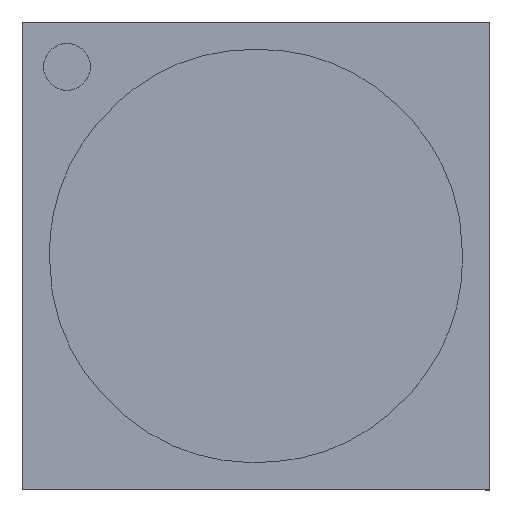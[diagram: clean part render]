
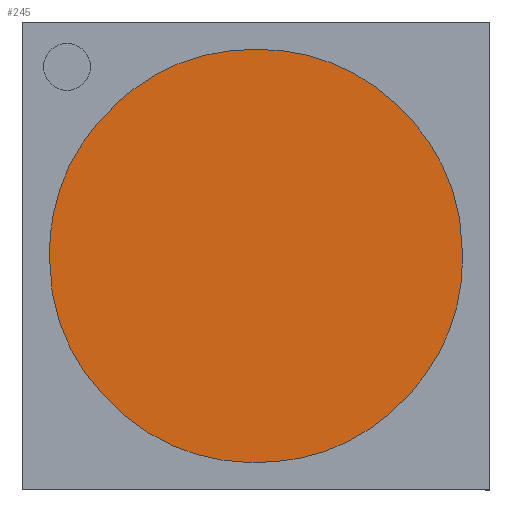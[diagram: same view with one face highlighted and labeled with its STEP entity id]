
A CAD part, top view. The second image highlights one B-rep face of the part: STEP entity #245.
In plain terms, the highlighted planar face has unit normal (0, 0, 1).
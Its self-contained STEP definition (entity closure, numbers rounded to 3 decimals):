
#7 = CARTESIAN_POINT ( 'NONE',  ( 1.163, 0.666, 0. ) ) ;
#11 = VERTEX_POINT ( 'NONE', #501 ) ;
#13 = ORIENTED_EDGE ( 'NONE', *, *, #552, .T. ) ;
#24 = CARTESIAN_POINT ( 'NONE',  ( -1.293, 0.352, 0. ) ) ;
#38 = VERTEX_POINT ( 'NONE', #551 ) ;
#41 = CARTESIAN_POINT ( 'NONE',  ( 0.664, 1.164, 0. ) ) ;
#52 = CARTESIAN_POINT ( 'NONE',  ( 0.367, -1.325, 0. ) ) ;
#65 = CARTESIAN_POINT ( 'NONE',  ( -0.807, 1.067, 0. ) ) ;
#89 = CARTESIAN_POINT ( 'NONE',  ( 1.325, 0.184, 0. ) ) ;
#110 = CARTESIAN_POINT ( 'NONE',  ( 0., -1.325, 0. ) ) ;
#149 = EDGE_LOOP ( 'NONE', ( #13, #358 ) ) ;
#182 = FACE_OUTER_BOUND ( 'NONE', #149, .T. ) ;
#185 = CARTESIAN_POINT ( 'NONE',  ( 1.067, 0.807, 0. ) ) ;
#192 = DIRECTION ( 'NONE',  ( 0., 0., 1. ) ) ;
#206 = AXIS2_PLACEMENT_3D ( 'NONE', #435, #192, #529 ) ;
#217 = CARTESIAN_POINT ( 'NONE',  ( 0.184, 1.325, 0. ) ) ;
#227 = CARTESIAN_POINT ( 'NONE',  ( 0.678, -1.197, 0. ) ) ;
#232 = B_SPLINE_CURVE_WITH_KNOTS ( 'NONE', 3,
 ( #440, #327, #238, #442, #65, #402, #411, #24, #340, #371, #495, #259, #548, #110 ),
 .UNSPECIFIED., .F., .F.,
 ( 4, 2, 2, 2, 2, 2, 4 ),
 ( 0.5, 0.563, 0.625, 0.688, 0.75, 0.875, 1. ),
 .UNSPECIFIED. ) ;
#238 = CARTESIAN_POINT ( 'NONE',  ( -0.353, 1.292, 0. ) ) ;
#245 = ADVANCED_FACE ( 'NONE', ( #182 ), #359, .T. ) ;
#255 = EDGE_CURVE ( 'NONE', #11, #38, #232, .T. ) ;
#259 = CARTESIAN_POINT ( 'NONE',  ( -0.677, -1.196, 0. ) ) ;
#276 = CARTESIAN_POINT ( 'NONE',  ( 0., 1.325, 0. ) ) ;
#327 = CARTESIAN_POINT ( 'NONE',  ( -0.184, 1.325, 0. ) ) ;
#340 = CARTESIAN_POINT ( 'NONE',  ( -1.325, 0.184, 0. ) ) ;
#358 = ORIENTED_EDGE ( 'NONE', *, *, #255, .T. ) ;
#359 = PLANE ( 'NONE',  #206 ) ;
#371 = CARTESIAN_POINT ( 'NONE',  ( -1.324, -0.367, 0. ) ) ;
#392 = CARTESIAN_POINT ( 'NONE',  ( 1.067, -0.807, 0. ) ) ;
#394 = CARTESIAN_POINT ( 'NONE',  ( 0.807, 1.067, 0. ) ) ;
#402 = CARTESIAN_POINT ( 'NONE',  ( -1.067, 0.807, 0. ) ) ;
#411 = CARTESIAN_POINT ( 'NONE',  ( -1.164, 0.664, 0. ) ) ;
#425 = CARTESIAN_POINT ( 'NONE',  ( 1.293, -0.352, 0. ) ) ;
#427 = CARTESIAN_POINT ( 'NONE',  ( 1.292, 0.353, 0. ) ) ;
#433 = CARTESIAN_POINT ( 'NONE',  ( 1.325, -0.184, 0. ) ) ;
#435 = CARTESIAN_POINT ( 'NONE',  ( -1.352, 1.352, 0. ) ) ;
#440 = CARTESIAN_POINT ( 'NONE',  ( 0., 1.325, 0. ) ) ;
#442 = CARTESIAN_POINT ( 'NONE',  ( -0.666, 1.163, 0. ) ) ;
#473 = CARTESIAN_POINT ( 'NONE',  ( 1.164, -0.664, 0. ) ) ;
#495 = CARTESIAN_POINT ( 'NONE',  ( -1.196, -0.678, 0. ) ) ;
#501 = CARTESIAN_POINT ( 'NONE',  ( 0., 1.325, 0. ) ) ;
#521 = CARTESIAN_POINT ( 'NONE',  ( 0., -1.325, 0. ) ) ;
#524 = CARTESIAN_POINT ( 'NONE',  ( 0.352, 1.293, 0. ) ) ;
#529 = DIRECTION ( 'NONE',  ( 0., -1., 0. ) ) ;
#533 = B_SPLINE_CURVE_WITH_KNOTS ( 'NONE', 3,
 ( #521, #52, #227, #392, #473, #425, #433, #89, #427, #7, #185, #394, #41, #524, #217, #276 ),
 .UNSPECIFIED., .F., .F.,
 ( 4, 2, 2, 2, 2, 2, 2, 4 ),
 ( 0., 0.125, 0.188, 0.25, 0.313, 0.375, 0.438, 0.5 ),
 .UNSPECIFIED. ) ;
#548 = CARTESIAN_POINT ( 'NONE',  ( -0.365, -1.325, 0. ) ) ;
#551 = CARTESIAN_POINT ( 'NONE',  ( 0., -1.325, 0. ) ) ;
#552 = EDGE_CURVE ( 'NONE', #38, #11, #533, .T. ) ;
